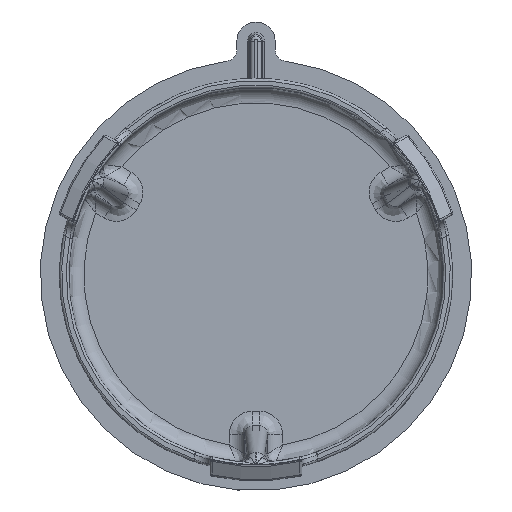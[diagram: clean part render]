
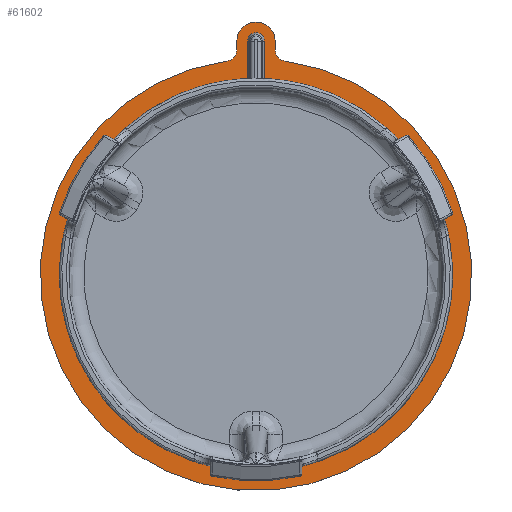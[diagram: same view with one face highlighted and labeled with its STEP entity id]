
A CAD part, top view. The second image highlights one B-rep face of the part: STEP entity #61602.
In plain terms, the highlighted planar face has unit normal (0, 0, 1).
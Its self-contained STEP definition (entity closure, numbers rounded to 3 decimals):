
#146=CARTESIAN_POINT('',(0.,0.,0.));
#147=DIRECTION('',(0.,0.,-1.));
#148=DIRECTION('',(0.043,0.999,0.));
#149=AXIS2_PLACEMENT_3D('',#146,#147,#148);
#446=DIRECTION('',(0.,1.,0.));
#447=VECTOR('',#446,1.121);
#448=CARTESIAN_POINT('',(-2.5,29.379,0.));
#449=LINE('',#448,#447);
#453=CARTESIAN_POINT('',(0.,30.5,0.));
#454=DIRECTION('',(0.,0.,-1.));
#455=DIRECTION('',(-1.,0.,0.));
#456=AXIS2_PLACEMENT_3D('',#453,#454,#455);
#461=DIRECTION('',(0.,-1.,0.));
#462=VECTOR('',#461,1.121);
#463=CARTESIAN_POINT('',(2.5,30.5,0.));
#464=LINE('',#463,#462);
#468=DIRECTION('',(0.,-1.,0.));
#469=VECTOR('',#468,4.874);
#470=CARTESIAN_POINT('',(-1.1,30.5,0.));
#471=LINE('',#470,#469);
#475=DIRECTION('',(0.,1.,0.));
#476=VECTOR('',#475,4.874);
#477=CARTESIAN_POINT('',(1.1,25.626,0.));
#478=LINE('',#477,#476);
#482=CARTESIAN_POINT('',(0.,30.5,0.));
#483=DIRECTION('',(0.,0.,1.));
#484=DIRECTION('',(1.,0.,0.));
#485=AXIS2_PLACEMENT_3D('',#482,#483,#484);
#505=CARTESIAN_POINT('',(0.,0.,0.));
#506=DIRECTION('',(0.,0.,1.));
#507=DIRECTION('',(-0.135,0.991,0.));
#508=AXIS2_PLACEMENT_3D('',#505,#506,#507);
#562=CARTESIAN_POINT('',(4.,29.379,0.));
#563=DIRECTION('',(0.,0.,-1.));
#564=DIRECTION('',(-0.135,-0.991,0.));
#565=AXIS2_PLACEMENT_3D('',#562,#563,#564);
#696=CARTESIAN_POINT('',(-4.,29.379,0.));
#697=DIRECTION('',(0.,0.,-1.));
#698=DIRECTION('',(1.,0.,0.));
#699=AXIS2_PLACEMENT_3D('',#696,#697,#698);
#52561=CARTESIAN_POINT('',(-2.5,30.5,0.));
#52562=CARTESIAN_POINT('',(2.5,30.5,0.));
#52563=VERTEX_POINT('',#52561);
#52564=VERTEX_POINT('',#52562);
#52565=CARTESIAN_POINT('',(2.5,29.379,0.));
#52566=VERTEX_POINT('',#52565);
#52567=CARTESIAN_POINT('',(-2.5,29.379,0.));
#52568=VERTEX_POINT('',#52567);
#52569=CARTESIAN_POINT('',(-3.798,27.893,0.));
#52570=CARTESIAN_POINT('',(3.798,27.893,0.));
#52571=VERTEX_POINT('',#52569);
#52572=VERTEX_POINT('',#52570);
#52597=CARTESIAN_POINT('',(-1.1,30.5,0.));
#52598=CARTESIAN_POINT('',(-1.1,25.626,0.));
#52599=VERTEX_POINT('',#52597);
#52600=VERTEX_POINT('',#52598);
#52601=CARTESIAN_POINT('',(1.1,25.626,0.));
#52602=CARTESIAN_POINT('',(1.1,30.5,0.));
#52603=VERTEX_POINT('',#52601);
#52604=VERTEX_POINT('',#52602);
#61575=CARTESIAN_POINT('',(0.,0.,0.));
#61576=DIRECTION('',(0.,0.,-1.));
#61577=DIRECTION('',(-1.,0.,0.));
#61578=AXIS2_PLACEMENT_3D('',#61575,#61576,#61577);
#61579=PLANE('',#61578);
#61581=ORIENTED_EDGE('',*,*,#61580,.F.);
#61583=ORIENTED_EDGE('',*,*,#61582,.F.);
#61585=ORIENTED_EDGE('',*,*,#61584,.T.);
#61587=ORIENTED_EDGE('',*,*,#61586,.T.);
#61589=ORIENTED_EDGE('',*,*,#61588,.T.);
#61591=ORIENTED_EDGE('',*,*,#61590,.F.);
#61592=EDGE_LOOP('',(#61581,#61583,#61585,#61587,#61589,#61591));
#61593=FACE_OUTER_BOUND('',#61592,.F.);
#61594=ORIENTED_EDGE('',*,*,#61561,.T.);
#61595=ORIENTED_EDGE('',*,*,#61393,.F.);
#61597=ORIENTED_EDGE('',*,*,#61596,.T.);
#61599=ORIENTED_EDGE('',*,*,#61598,.T.);
#61600=EDGE_LOOP('',(#61594,#61595,#61597,#61599));
#61601=FACE_BOUND('',#61600,.F.);
#150=CIRCLE('',#149,25.65);
#457=CIRCLE('',#456,2.5);
#486=CIRCLE('',#485,1.1);
#509=CIRCLE('',#508,28.15);
#566=CIRCLE('',#565,1.5);
#700=CIRCLE('',#699,1.5);
#61393=EDGE_CURVE('',#52603,#52600,#150,.T.);
#61561=EDGE_CURVE('',#52599,#52600,#471,.T.);
#61580=EDGE_CURVE('',#52571,#52572,#509,.T.);
#61582=EDGE_CURVE('',#52568,#52571,#700,.T.);
#61584=EDGE_CURVE('',#52568,#52563,#449,.T.);
#61586=EDGE_CURVE('',#52563,#52564,#457,.T.);
#61588=EDGE_CURVE('',#52564,#52566,#464,.T.);
#61590=EDGE_CURVE('',#52572,#52566,#566,.T.);
#61596=EDGE_CURVE('',#52603,#52604,#478,.T.);
#61598=EDGE_CURVE('',#52604,#52599,#486,.T.);
#61602=ADVANCED_FACE('',(#61593,#61601),#61579,.F.);
